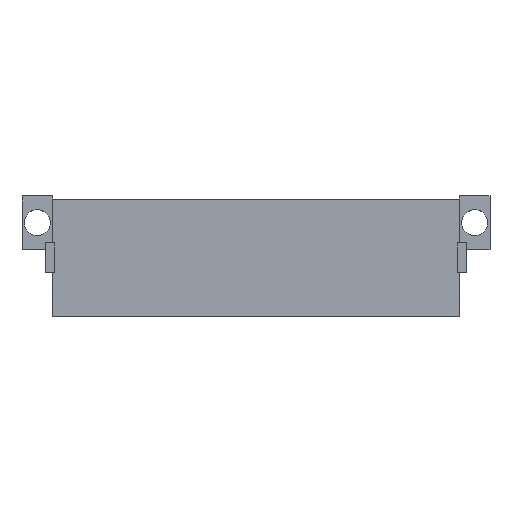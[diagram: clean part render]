
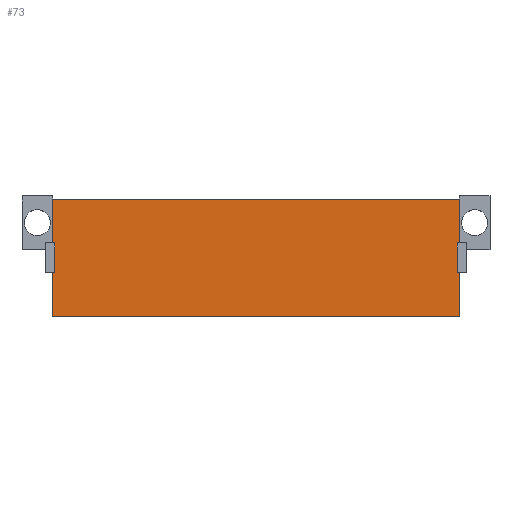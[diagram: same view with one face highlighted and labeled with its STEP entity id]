
A CAD part, top view. The second image highlights one B-rep face of the part: STEP entity #73.
In plain terms, the highlighted planar face has unit normal (0, 0, 1).
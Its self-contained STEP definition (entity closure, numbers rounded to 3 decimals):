
#21 = EDGE_CURVE('',#22,#24,#26,.T.);
#22 = VERTEX_POINT('',#23);
#23 = CARTESIAN_POINT('',(-26.6,-24.263,142.788));
#24 = VERTEX_POINT('',#25);
#25 = CARTESIAN_POINT('',(-26.6,-18.623,142.788));
#26 = LINE('',#27,#28);
#27 = CARTESIAN_POINT('',(-26.6,-24.263,142.788));
#28 = VECTOR('',#29,1.);
#29 = DIRECTION('',(-0.,1.,0.));
#73 = ADVANCED_FACE('',(#74),#163,.T.);
#74 = FACE_BOUND('',#75,.T.);
#75 = EDGE_LOOP('',(#76,#77,#85,#93,#101,#109,#117,#125,#133,#141,#149,
    #157));
#76 = ORIENTED_EDGE('',*,*,#21,.F.);
#77 = ORIENTED_EDGE('',*,*,#78,.T.);
#78 = EDGE_CURVE('',#22,#79,#81,.T.);
#79 = VERTEX_POINT('',#80);
#80 = CARTESIAN_POINT('',(26.6,-24.263,142.788));
#81 = LINE('',#82,#83);
#82 = CARTESIAN_POINT('',(-26.6,-24.263,142.788));
#83 = VECTOR('',#84,1.);
#84 = DIRECTION('',(1.,0.,-0.));
#85 = ORIENTED_EDGE('',*,*,#86,.T.);
#86 = EDGE_CURVE('',#79,#87,#89,.T.);
#87 = VERTEX_POINT('',#88);
#88 = CARTESIAN_POINT('',(26.6,-18.623,142.788));
#89 = LINE('',#90,#91);
#90 = CARTESIAN_POINT('',(26.6,-24.263,142.788));
#91 = VECTOR('',#92,1.);
#92 = DIRECTION('',(-0.,1.,0.));
#93 = ORIENTED_EDGE('',*,*,#94,.T.);
#94 = EDGE_CURVE('',#87,#95,#97,.T.);
#95 = VERTEX_POINT('',#96);
#96 = CARTESIAN_POINT('',(26.3,-18.623,142.788));
#97 = LINE('',#98,#99);
#98 = CARTESIAN_POINT('',(-0.15,-18.623,142.788));
#99 = VECTOR('',#100,1.);
#100 = DIRECTION('',(-1.,-0.,0.));
#101 = ORIENTED_EDGE('',*,*,#102,.T.);
#102 = EDGE_CURVE('',#95,#103,#105,.T.);
#103 = VERTEX_POINT('',#104);
#104 = CARTESIAN_POINT('',(26.3,-14.703,142.788));
#105 = LINE('',#106,#107);
#106 = CARTESIAN_POINT('',(26.3,-21.443,142.788));
#107 = VECTOR('',#108,1.);
#108 = DIRECTION('',(-0.,1.,0.));
#109 = ORIENTED_EDGE('',*,*,#110,.F.);
#110 = EDGE_CURVE('',#111,#103,#113,.T.);
#111 = VERTEX_POINT('',#112);
#112 = CARTESIAN_POINT('',(26.6,-14.703,142.788));
#113 = LINE('',#114,#115);
#114 = CARTESIAN_POINT('',(-0.15,-14.703,142.788));
#115 = VECTOR('',#116,1.);
#116 = DIRECTION('',(-1.,-0.,0.));
#117 = ORIENTED_EDGE('',*,*,#118,.T.);
#118 = EDGE_CURVE('',#111,#119,#121,.T.);
#119 = VERTEX_POINT('',#120);
#120 = CARTESIAN_POINT('',(26.6,-9.063,142.788));
#121 = LINE('',#122,#123);
#122 = CARTESIAN_POINT('',(26.6,-24.263,142.788));
#123 = VECTOR('',#124,1.);
#124 = DIRECTION('',(-0.,1.,0.));
#125 = ORIENTED_EDGE('',*,*,#126,.F.);
#126 = EDGE_CURVE('',#127,#119,#129,.T.);
#127 = VERTEX_POINT('',#128);
#128 = CARTESIAN_POINT('',(-26.6,-9.063,142.788));
#129 = LINE('',#130,#131);
#130 = CARTESIAN_POINT('',(-26.6,-9.063,142.788));
#131 = VECTOR('',#132,1.);
#132 = DIRECTION('',(1.,0.,-0.));
#133 = ORIENTED_EDGE('',*,*,#134,.F.);
#134 = EDGE_CURVE('',#135,#127,#137,.T.);
#135 = VERTEX_POINT('',#136);
#136 = CARTESIAN_POINT('',(-26.6,-14.703,142.788));
#137 = LINE('',#138,#139);
#138 = CARTESIAN_POINT('',(-26.6,-24.263,142.788));
#139 = VECTOR('',#140,1.);
#140 = DIRECTION('',(-0.,1.,0.));
#141 = ORIENTED_EDGE('',*,*,#142,.F.);
#142 = EDGE_CURVE('',#143,#135,#145,.T.);
#143 = VERTEX_POINT('',#144);
#144 = CARTESIAN_POINT('',(-26.3,-14.703,142.788));
#145 = LINE('',#146,#147);
#146 = CARTESIAN_POINT('',(-27.05,-14.703,142.788));
#147 = VECTOR('',#148,1.);
#148 = DIRECTION('',(-1.,-0.,0.));
#149 = ORIENTED_EDGE('',*,*,#150,.F.);
#150 = EDGE_CURVE('',#151,#143,#153,.T.);
#151 = VERTEX_POINT('',#152);
#152 = CARTESIAN_POINT('',(-26.3,-18.623,142.788));
#153 = LINE('',#154,#155);
#154 = CARTESIAN_POINT('',(-26.3,-21.443,142.788));
#155 = VECTOR('',#156,1.);
#156 = DIRECTION('',(-0.,1.,0.));
#157 = ORIENTED_EDGE('',*,*,#158,.T.);
#158 = EDGE_CURVE('',#151,#24,#159,.T.);
#159 = LINE('',#160,#161);
#160 = CARTESIAN_POINT('',(-27.05,-18.623,142.788));
#161 = VECTOR('',#162,1.);
#162 = DIRECTION('',(-1.,-0.,0.));
#163 = PLANE('',#164);
#164 = AXIS2_PLACEMENT_3D('',#165,#166,#167);
#165 = CARTESIAN_POINT('',(-26.6,-24.263,142.788));
#166 = DIRECTION('',(0.,0.,1.));
#167 = DIRECTION('',(1.,0.,-0.));
